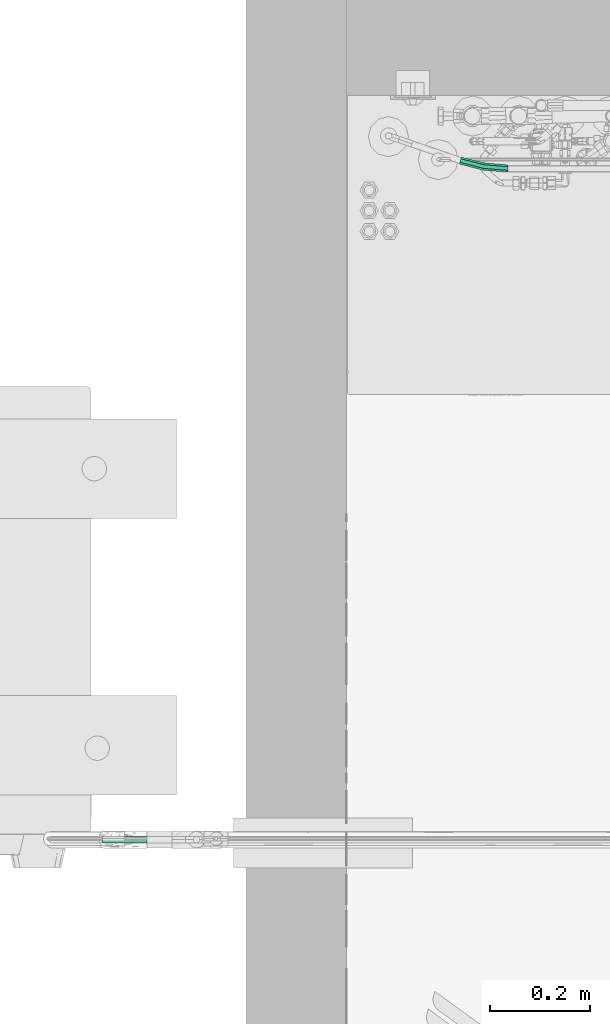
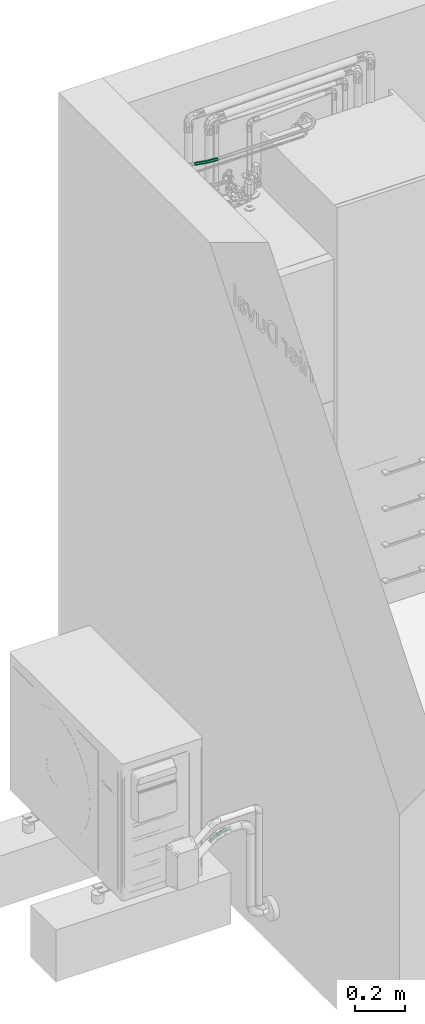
# One storey, part 25 of 30: 2 flow fittings.
"""IFC2X3 building model written with IfcOpenShell, lengths in metres."""

import ifcopenshell
import ifcopenshell.guid

model = None  # the IFC model being written
_history = None  # IfcOwnerHistory: only IFC2X3 demands one
_inside = {}  # id of a spatial element -> (the spatial element, [elements in it])
_under = {}  # id of a project, library or spatial element -> (it, [spatial elements below it])
_declared = {}  # id of a project -> (the project, [libraries it declares])
_typed = {}  # id of a type object -> (the type object, [elements of that type])
_made_of = {}  # id of a material, layer set ... -> (it, [elements and type objects made of it])


def new_model(schema):
    """Start an empty IFC model of exactly this schema.

    Asked for "IFC4X3", IfcOpenShell would pick the latest addendum, in which some entities
    have other attributes; the version numbers below select the first issue.
    IFC2X3 requires an IfcOwnerHistory on every rooted entity: one is made here for all.
    """
    global model, _history
    if schema == "IFC4X3":
        model = ifcopenshell.file(schema_version=(4, 3, 0, 0))
    else:
        model = ifcopenshell.file(schema=schema)
    _inside.clear()
    _under.clear()
    _declared.clear()
    _typed.clear()
    _made_of.clear()
    _history = None
    if model.schema == "IFC2X3":
        org = make("IfcOrganization", Name="unknown")
        user = make(
            "IfcPersonAndOrganization",
            ThePerson=make("IfcPerson", FamilyName="unknown"),
            TheOrganization=org,
        )
        app = make(
            "IfcApplication",
            ApplicationDeveloper=org,
            Version="unknown",
            ApplicationFullName="unknown",
            ApplicationIdentifier="unknown",
        )
        _history = make(
            "IfcOwnerHistory",
            OwningUser=user,
            OwningApplication=app,
            ChangeAction="ADDED",
            CreationDate=0,
        )
    return model


def make(cls, **values):
    """One entity of the class cls with the attributes given. An attribute that is None is left unset."""
    return model.create_entity(
        cls, **{name: value for name, value in values.items() if value is not None}
    )


def entity(cls, *values):
    """Any entity or typed value of the class cls, its attributes in the order of the schema. None: left unset."""
    e = model.create_entity(cls)
    for i, value in enumerate(values):
        if value is not None:
            e[i] = value
    return e


def rooted(cls, **values):
    """An entity with a GlobalId (a new one), such as an element, a storey or a relation."""
    return make(cls, GlobalId=ifcopenshell.guid.new(), OwnerHistory=_history, **values)


def si_unit(unit_type, name, prefix=None):
    """IfcSIUnit, for example si_unit("LENGTHUNIT", "METRE", prefix="MILLI")."""
    return make("IfcSIUnit", UnitType=unit_type, Prefix=prefix, Name=name)


def converted_unit(unit_type, name, factor, base, dimensions=None, offset=None):
    """IfcConversionBasedUnit, such as the inch: factor (a typed value) times the base unit."""
    return make(
        "IfcConversionBasedUnit"
        if offset is None
        else "IfcConversionBasedUnitWithOffset",
        ConversionOffset=offset,
        Dimensions=None
        if dimensions is None
        else entity("IfcDimensionalExponents", *dimensions),
        UnitType=unit_type,
        Name=name,
        ConversionFactor=make(
            "IfcMeasureWithUnit", ValueComponent=factor, UnitComponent=base
        ),
    )


def derived_unit(unit_type, elements):
    """IfcDerivedUnit: a product of units, each with its exponent."""
    return make(
        "IfcDerivedUnit",
        Elements=[
            make("IfcDerivedUnitElement", Unit=unit, Exponent=power)
            for unit, power in elements
        ],
        UnitType=unit_type,
    )


def assignment(units):
    """IfcUnitAssignment: the units of a project."""
    return None if units is None else make("IfcUnitAssignment", Units=units)


def point(xyz):
    """IfcCartesianPoint."""
    return None if xyz is None else make("IfcCartesianPoint", Coordinates=xyz)


def direction(xyz):
    """IfcDirection."""
    return None if xyz is None else make("IfcDirection", DirectionRatios=xyz)


def frame(location, z_axis=None, x_axis=None):
    """IfcAxis2Placement3D, a coordinate frame: its origin and axes. An axis left out is left unset."""
    return make(
        "IfcAxis2Placement3D",
        Location=point(location),
        Axis=direction(z_axis),
        RefDirection=direction(x_axis),
    )


def origin():
    """The frame at (0, 0, 0) with its axes left unset."""
    return frame((0.0, 0.0, 0.0))


def place(relative_to, where):
    """IfcLocalPlacement: puts the frame where relative to a parent placement (None: the world)."""
    return make(
        "IfcLocalPlacement", PlacementRelTo=relative_to, RelativePlacement=where
    )


def context(
    kind, dimensions, precision=None, world=None, true_north=None, identifier=None
):
    """IfcGeometricRepresentationContext, for example the 3D "Model" context."""
    return make(
        "IfcGeometricRepresentationContext",
        ContextIdentifier=identifier,
        ContextType=kind,
        CoordinateSpaceDimension=dimensions,
        Precision=precision,
        WorldCoordinateSystem=world,
        TrueNorth=true_north,
    )


def subcontext(parent, identifier, kind, view, scale=None):
    """IfcGeometricRepresentationSubContext, for example "Body" below "Model"."""
    return make(
        "IfcGeometricRepresentationSubContext",
        ContextIdentifier=identifier,
        ContextType=kind,
        ParentContext=parent,
        TargetScale=scale,
        TargetView=view,
    )


def project(units=None, contexts=None):
    """IfcProject with its units and contexts."""
    return rooted(
        "IfcProject",
        Name="project",
        RepresentationContexts=contexts,
        UnitsInContext=assignment(units),
    )


def spatial(cls, under=None, at=None, **own):
    """A site, building, storey or space (cls), placed at a placement, below another one or the project."""
    s = rooted(cls, ObjectPlacement=at, **own)
    if under is not None:
        _under.setdefault(under.id(), (under, []))[1].append(s)
    return s


def faces_of(points, faces, orient=None, outer=None):
    """IfcFace entities. A face is a list of loops; a loop is a list of indices into points, from 0.

    orient and outer hold one flag for each loop. By default every Orientation is true, the
    first loop of a face is its IfcFaceOuterBound and the others are IfcFaceBound.
    """
    made = []
    for i, loops in enumerate(faces):
        bounds = []
        for j, loop in enumerate(loops):
            is_outer = j == 0 if outer is None else outer[i][j]
            bounds.append(
                make(
                    "IfcFaceOuterBound" if is_outer else "IfcFaceBound",
                    Bound=make("IfcPolyLoop", Polygon=[points[k] for k in loop]),
                    Orientation=True if orient is None else orient[i][j],
                )
            )
        made.append(make("IfcFace", Bounds=bounds))
    return made


def faceted_brep(points, faces, orient=None, outer=None, voids=None):
    """IfcFacetedBrep: a solid bounded by flat faces; with voids (closed shells), ...WithVoids."""
    shared = [point(p) for p in points]
    hull = make("IfcClosedShell", CfsFaces=faces_of(shared, faces, orient, outer))
    if voids is None:
        return make("IfcFacetedBrep", Outer=hull)
    return make(
        "IfcFacetedBrepWithVoids",
        Outer=hull,
        Voids=[
            make(cls, CfsFaces=faces_of(shared, fs, o, b)) for cls, fs, o, b in voids
        ],
    )


def shape(context_of_items, identifier, shape_type, items):
    """IfcShapeRepresentation: the items that make up one representation, for example the "Body"."""
    return make(
        "IfcShapeRepresentation",
        ContextOfItems=context_of_items,
        RepresentationIdentifier=identifier,
        RepresentationType=shape_type,
        Items=items,
    )


def source(mapping_origin, context_of_items, identifier, shape_type, items):
    """IfcRepresentationMap: a shape defined once, which mapped items show again and again."""
    return make(
        "IfcRepresentationMap",
        MappingOrigin=mapping_origin,
        MappedRepresentation=shape(context_of_items, identifier, shape_type, items),
    )


def transform(
    local_origin,
    x_axis=None,
    y_axis=None,
    z_axis=None,
    scale=None,
    scale2=None,
    scale3=None,
    uniform=True,
):
    """IfcCartesianTransformationOperator3D, or its non-uniform kind. x_axis, y_axis, z_axis: its Axis1, 2, 3."""
    if uniform:
        return make(
            "IfcCartesianTransformationOperator3D",
            Axis1=direction(x_axis),
            Axis2=direction(y_axis),
            LocalOrigin=point(local_origin),
            Scale=scale,
            Axis3=direction(z_axis),
        )
    return make(
        "IfcCartesianTransformationOperator3DnonUniform",
        Axis1=direction(x_axis),
        Axis2=direction(y_axis),
        LocalOrigin=point(local_origin),
        Scale=scale,
        Axis3=direction(z_axis),
        Scale2=scale2,
        Scale3=scale3,
    )


def mapped(mapping_source, mapping_target):
    """IfcMappedItem: shows the shape of a source again, moved by a transform."""
    return make(
        "IfcMappedItem", MappingSource=mapping_source, MappingTarget=mapping_target
    )


def material(Name=None, Category=None):
    """IfcMaterial."""
    return make("IfcMaterial", Name=Name, Category=Category)


def made_of(thing, what):
    """Note that an element or type object is made of a material, layer set ...; save() writes the relation."""
    if what is not None:
        _made_of.setdefault(what.id(), (what, []))[1].append(thing)
    return thing


def type_object(cls, material=None, **own):
    """A type object (cls), such as IfcWallType, which elements share."""
    return made_of(rooted(cls, **own), material)


def type_shapes(of_type, sources):
    """Give a type object the sources (RepresentationMaps) that its elements show as mapped items."""
    of_type.RepresentationMaps = sources


def element(
    cls,
    number,
    at=None,
    inside=None,
    cuts=None,
    type_object=None,
    material=None,
    context=None,
    identifier="Body",
    shape_type=None,
    held_by="IfcProductDefinitionShape",
    body=None,
    shapes=None,
    **own,
):
    """One element of the class cls, such as IfcWall. Its Tag is "e" and its number.

    at: its placement. inside: the storey or other place that contains it. cuts: it is an
    opening in that element (IfcRelVoidsElement). A single representation is given by context,
    identifier, shape_type and body (its items); several are given by shapes. held_by: the class
    of the entity that holds the representations. save() writes the other relations.
    """
    e = rooted(cls, Tag="e%d" % number, ObjectPlacement=at, **own)
    if body is not None:
        shapes = [shape(context, identifier, shape_type, body)]
    if shapes is not None:
        e.Representation = make(held_by, Representations=shapes)
    if inside is not None:
        _inside.setdefault(inside.id(), (inside, []))[1].append(e)
    if cuts is not None:
        rooted(
            "IfcRelVoidsElement", RelatingBuildingElement=cuts, RelatedOpeningElement=e
        )
    if type_object is not None:
        _typed.setdefault(type_object.id(), (type_object, []))[1].append(e)
    return made_of(e, material)


def aggregate(whole, parts):
    """IfcRelAggregates: a whole, such as a stair, and the parts it consists of."""
    return rooted("IfcRelAggregates", RelatingObject=whole, RelatedObjects=parts)


def save(model, path):
    """Write the relations noted so far, then the file.

    IfcRelAggregates (storeys below a building ...), IfcRelContainedInSpatialStructure (elements
    in a storey), IfcRelDefinesByType, IfcRelAssociatesMaterial and IfcRelDeclares: one each for
    every whole, place, type object, material and project.
    """
    for whole, parts in _under.values():
        aggregate(whole, parts)
    for where, things in _inside.values():
        rooted(
            "IfcRelContainedInSpatialStructure",
            RelatedElements=things,
            RelatingStructure=where,
        )
    for kind, things in _typed.values():
        rooted("IfcRelDefinesByType", RelatedObjects=things, RelatingType=kind)
    for what, things in _made_of.values():
        rooted("IfcRelAssociatesMaterial", RelatedObjects=things, RelatingMaterial=what)
    for by, libraries in _declared.values():
        rooted("IfcRelDeclares", RelatingContext=by, RelatedDefinitions=libraries)
    model.write(path)


model = new_model("IFC2X3")

# Units and contexts
model_context = context("Model", 3, precision=1e-05, world=origin(), true_north=direction((6.123031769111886e-17, 1.0)))
body_context = subcontext(model_context, "Body", "Model", "MODEL_VIEW")
ifc_project = project(units=[si_unit("LENGTHUNIT", "METRE"), si_unit("AREAUNIT", "SQUARE_METRE"), si_unit("VOLUMEUNIT", "CUBIC_METRE"), converted_unit("PLANEANGLEUNIT", "DEGREE", entity("IfcPlaneAngleMeasure", 0.017453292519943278), si_unit("PLANEANGLEUNIT", "RADIAN"), dimensions=[0, 0, 0, 0, 0, 0, 0]), si_unit("MASSUNIT", "GRAM", prefix="KILO"), derived_unit("MASSDENSITYUNIT", [(si_unit("MASSUNIT", "GRAM", prefix="KILO"), 1), (si_unit("LENGTHUNIT", "METRE"), -3)]), derived_unit("IONCONCENTRATIONUNIT", [(si_unit("MASSUNIT", "GRAM", prefix="KILO"), 1), (si_unit("LENGTHUNIT", "METRE"), -3)]), derived_unit("MOMENTOFINERTIAUNIT", [(si_unit("LENGTHUNIT", "METRE"), 4)]), si_unit("TIMEUNIT", "SECOND"), si_unit("FREQUENCYUNIT", "HERTZ"), si_unit("THERMODYNAMICTEMPERATUREUNIT", "DEGREE_CELSIUS"), derived_unit("THERMALTRANSMITTANCEUNIT", [(si_unit("MASSUNIT", "GRAM", prefix="KILO"), 1), (si_unit("THERMODYNAMICTEMPERATUREUNIT", "KELVIN"), -1), (si_unit("TIMEUNIT", "SECOND"), -3)]), derived_unit("THERMALCONDUCTANCEUNIT", [(si_unit("MASSUNIT", "GRAM", prefix="KILO"), 1), (si_unit("THERMODYNAMICTEMPERATUREUNIT", "KELVIN"), -1), (si_unit("TIMEUNIT", "SECOND"), -3), (si_unit("LENGTHUNIT", "METRE"), 1)]), derived_unit("VOLUMETRICFLOWRATEUNIT", [(si_unit("LENGTHUNIT", "METRE", prefix="DECI"), 3), (si_unit("TIMEUNIT", "SECOND"), -1)]), derived_unit("MASSFLOWRATEUNIT", [(si_unit("MASSUNIT", "GRAM", prefix="KILO"), 1), (si_unit("TIMEUNIT", "SECOND"), -1)]), derived_unit("ROTATIONALFREQUENCYUNIT", [(si_unit("TIMEUNIT", "SECOND"), -1)]), si_unit("ELECTRICCURRENTUNIT", "AMPERE"), si_unit("ELECTRICVOLTAGEUNIT", "VOLT"), si_unit("POWERUNIT", "WATT"), si_unit("FORCEUNIT", "NEWTON", prefix="KILO"), si_unit("ILLUMINANCEUNIT", "LUX"), si_unit("LUMINOUSFLUXUNIT", "LUMEN"), si_unit("LUMINOUSINTENSITYUNIT", "CANDELA"), si_unit("ENERGYUNIT", "JOULE"), derived_unit("USERDEFINED", [(si_unit("MASSUNIT", "GRAM", prefix="KILO"), -1), (si_unit("LENGTHUNIT", "METRE"), -2), (si_unit("TIMEUNIT", "SECOND"), 3), (si_unit("LUMINOUSFLUXUNIT", "LUMEN"), 1)]), derived_unit("USERDEFINED", [(si_unit("MASSUNIT", "GRAM", prefix="KILO"), 1), (si_unit("TIMEUNIT", "SECOND"), -3), (si_unit("LENGTHUNIT", "METRE"), 3), (si_unit("ELECTRICCURRENTUNIT", "AMPERE"), -2)]), derived_unit("SOUNDPOWERUNIT", [(si_unit("MASSUNIT", "GRAM", prefix="KILO"), 1), (si_unit("TIMEUNIT", "SECOND"), -3), (si_unit("LENGTHUNIT", "METRE"), 2)]), derived_unit("SOUNDPRESSUREUNIT", [(si_unit("MASSUNIT", "GRAM", prefix="KILO"), 1), (si_unit("LENGTHUNIT", "METRE"), -1), (si_unit("TIMEUNIT", "SECOND"), -2)]), derived_unit("LINEARVELOCITYUNIT", [(si_unit("LENGTHUNIT", "METRE"), 1), (si_unit("TIMEUNIT", "SECOND"), -1)]), si_unit("PRESSUREUNIT", "PASCAL"), derived_unit("USERDEFINED", [(si_unit("MASSUNIT", "GRAM", prefix="KILO"), 1), (si_unit("LENGTHUNIT", "METRE"), -2), (si_unit("TIMEUNIT", "SECOND"), -2)]), derived_unit("LINEARFORCEUNIT", [(si_unit("MASSUNIT", "GRAM", prefix="KILO"), 1), (si_unit("TIMEUNIT", "SECOND"), -2)]), derived_unit("PLANARFORCEUNIT", [(si_unit("MASSUNIT", "GRAM", prefix="KILO"), 1), (si_unit("LENGTHUNIT", "METRE"), -1), (si_unit("TIMEUNIT", "SECOND"), -2)]), derived_unit("SPECIFICHEATCAPACITYUNIT", [(si_unit("THERMODYNAMICTEMPERATUREUNIT", "KELVIN"), -1), (si_unit("LENGTHUNIT", "METRE"), 2), (si_unit("TIMEUNIT", "SECOND"), -2)]), derived_unit("HEATFLUXDENSITYUNIT", [(si_unit("MASSUNIT", "GRAM", prefix="KILO"), 1), (si_unit("TIMEUNIT", "SECOND"), -3)]), derived_unit("HEATINGVALUEUNIT", [(si_unit("LENGTHUNIT", "METRE"), 2), (si_unit("TIMEUNIT", "SECOND"), -2)]), derived_unit("VAPORPERMEABILITYUNIT", [(si_unit("LENGTHUNIT", "METRE"), -1), (si_unit("TIMEUNIT", "SECOND"), 1)]), derived_unit("DYNAMICVISCOSITYUNIT", [(si_unit("MASSUNIT", "GRAM", prefix="KILO"), 1), (si_unit("TIMEUNIT", "SECOND"), -1), (si_unit("LENGTHUNIT", "METRE"), -1)]), derived_unit("THERMALEXPANSIONCOEFFICIENTUNIT", [(si_unit("THERMODYNAMICTEMPERATUREUNIT", "KELVIN"), -1)]), derived_unit("MODULUSOFELASTICITYUNIT", [(si_unit("MASSUNIT", "GRAM", prefix="KILO"), 1), (si_unit("LENGTHUNIT", "METRE"), -1), (si_unit("TIMEUNIT", "SECOND"), -2)]), derived_unit("ISOTHERMALMOISTURECAPACITYUNIT", [(si_unit("MASSUNIT", "GRAM", prefix="KILO"), -1), (si_unit("LENGTHUNIT", "METRE"), 3)]), derived_unit("MOISTUREDIFFUSIVITYUNIT", [(si_unit("TIMEUNIT", "SECOND"), -1), (si_unit("LENGTHUNIT", "METRE"), 2)]), derived_unit("MASSPERLENGTHUNIT", [(si_unit("MASSUNIT", "GRAM", prefix="KILO"), 1), (si_unit("LENGTHUNIT", "METRE"), -1)]), derived_unit("THERMALRESISTANCEUNIT", [(si_unit("MASSUNIT", "GRAM", prefix="KILO"), -1), (si_unit("TIMEUNIT", "SECOND"), 3), (si_unit("THERMODYNAMICTEMPERATUREUNIT", "KELVIN"), 1)]), derived_unit("ACCELERATIONUNIT", [(si_unit("LENGTHUNIT", "METRE"), 1), (si_unit("TIMEUNIT", "SECOND"), -2)]), derived_unit("ANGULARVELOCITYUNIT", [(si_unit("TIMEUNIT", "SECOND"), -1), (si_unit("PLANEANGLEUNIT", "RADIAN"), 1)]), derived_unit("LINEARSTIFFNESSUNIT", [(si_unit("MASSUNIT", "GRAM", prefix="KILO"), 1), (si_unit("TIMEUNIT", "SECOND"), -2)]), derived_unit("WARPINGCONSTANTUNIT", [(si_unit("LENGTHUNIT", "METRE"), 6)]), derived_unit("LINEARMOMENTUNIT", [(si_unit("MASSUNIT", "GRAM", prefix="KILO"), 1), (si_unit("LENGTHUNIT", "METRE"), 1), (si_unit("TIMEUNIT", "SECOND"), -2)]), derived_unit("TORQUEUNIT", [(si_unit("MASSUNIT", "GRAM", prefix="KILO"), 1), (si_unit("LENGTHUNIT", "METRE"), 2), (si_unit("TIMEUNIT", "SECOND"), -2)])], contexts=[model_context])

# Site, building, storey
site_placement = place(None, origin())
site = spatial("IfcSite", under=ifc_project, at=site_placement, Name="Default", CompositionType="ELEMENT")
building_placement = place(site_placement, origin())
building = spatial("IfcBuilding", under=site, at=building_placement, CompositionType="ELEMENT")
storey_placement = place(building_placement, origin())
storey = spatial("IfcBuildingStorey", under=building, at=storey_placement, Name="Niveau 0", CompositionType="ELEMENT", Elevation=-1.949160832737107e-14)

# Flow fittings
ifc_material = material(Name="Cuivre")
pipe_fitting_type_1 = type_object("IfcPipeFittingType", Name="Coude - tube frigo:Standard", PredefinedType="NOTDEFINED", material=ifc_material)
shared_shape_1 = source(origin(), body_context, "Body", "Brep", [
    faceted_brep([(0.01478892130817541, 0.007839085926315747, 0.0), (0.013139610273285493, 0.011123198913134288, -0.006365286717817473), (0.04012857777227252, 0.028873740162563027, -0.006365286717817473), (0.04249078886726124, 0.02605849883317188, 0.0), (0.009840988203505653, 0.0176914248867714, -0.006365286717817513), (0.03540415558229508, 0.03450422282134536, -0.006365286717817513), (0.00819167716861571, 0.020975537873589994, 0.0), (0.033041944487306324, 0.03731946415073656, 0.0), (0.00984098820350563, 0.01769142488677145, 0.00636528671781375), (0.035404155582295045, 0.0345042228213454, 0.00636528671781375), (0.013139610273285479, 0.011123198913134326, 0.0063652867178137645), (0.0401285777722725, 0.028873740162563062, 0.0063652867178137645), (-0.016367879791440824, -0.0035008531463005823, 0.0), (-0.017215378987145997, 7.509010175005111e-05, -0.006365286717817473), (-0.01891037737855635, 0.007226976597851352, -0.006365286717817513), (-0.01975787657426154, 0.010802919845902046, 0.0), (-0.01891037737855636, 0.007226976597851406, 0.00636528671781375), (-0.017215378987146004, 7.509010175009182e-05, 0.0063652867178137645), (-0.049299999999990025, -0.00735000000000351, 0.0), (-0.04929999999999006, -0.003675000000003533, -0.006365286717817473), (-0.049299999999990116, 0.0036749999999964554, -0.006365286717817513), (-0.04929999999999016, 0.007349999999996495, 0.0), (-0.049299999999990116, 0.003674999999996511, 0.00636528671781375), (-0.04929999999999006, -0.0036750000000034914, 0.0063652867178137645)], [[[0, 1, 2, 3]], [[1, 4, 5, 2]], [[4, 6, 7, 5]], [[6, 8, 9, 7]], [[8, 10, 11, 9]], [[10, 0, 3, 11]], [[12, 13, 1, 0]], [[13, 14, 4, 1]], [[14, 15, 6, 4]], [[15, 16, 8, 6]], [[16, 17, 10, 8]], [[17, 12, 0, 10]], [[18, 19, 13, 12]], [[19, 20, 14, 13]], [[20, 21, 15, 14]], [[21, 22, 16, 15]], [[22, 23, 17, 16]], [[23, 18, 12, 17]], [[3, 2, 5, 7, 9, 11]], [[23, 22, 21, 20, 19, 18]]]),
])
type_shapes(pipe_fitting_type_1, [shared_shape_1])
flow_fitting_1_placement = place(storey_placement, frame((-21.064611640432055, 1.3750530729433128, 0.03567192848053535), z_axis=(0.0, -1.0, 0.0), x_axis=(-1.0, 0.0, -1.1853610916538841e-05)))
element("IfcFlowFitting", 1, at=flow_fitting_1_placement, inside=storey, type_object=pipe_fitting_type_1, material=ifc_material, Name="Coude - tube frigo:Standard", ObjectType="Coude - tube frigo:Standard", context=body_context, shape_type="MappedRepresentation", body=[
    mapped(shared_shape_1, transform((0.0, 0.0, 0.0), scale=1.0)),
])
pipe_fitting_type_2 = type_object("IfcPipeFittingType", Name="Coude - tube frigo:Standard", PredefinedType="NOTDEFINED", material=ifc_material)
shared_shape_2 = source(origin(), body_context, "Body", "Brep", [
    faceted_brep([(0.0005369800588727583, -0.0032088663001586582, 0.0), (-6.9569892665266e-05, 0.00041573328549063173, -0.006365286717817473), (0.04781052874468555, 0.012575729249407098, -0.006365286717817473), (0.04900699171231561, 0.009100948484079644, 0.0), (-0.0012826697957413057, 0.007664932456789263, -0.006365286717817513), (0.04541760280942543, 0.01952529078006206, -0.006365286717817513), (-0.0018892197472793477, 0.011289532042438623, 0.0), (0.04422113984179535, 0.023000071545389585, 0.0), (-0.0012826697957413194, 0.007664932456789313, 0.00636528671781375), (0.04541760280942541, 0.01952529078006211, 0.00636528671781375), (-6.956989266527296e-05, 0.00041573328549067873, 0.0063652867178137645), (0.04781052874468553, 0.012575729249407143, 0.0063652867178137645), (-0.04929999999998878, -0.007350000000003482, 0.0), (-0.04929999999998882, -0.0036750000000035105, -0.006365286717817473), (-0.04929999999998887, 0.0036749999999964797, -0.006365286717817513), (-0.049299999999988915, 0.0073499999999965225, 0.0), (-0.049299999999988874, 0.0036749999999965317, 0.00636528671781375), (-0.04929999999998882, -0.0036750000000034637, 0.0063652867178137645)], [[[0, 1, 2, 3]], [[1, 4, 5, 2]], [[4, 6, 7, 5]], [[6, 8, 9, 7]], [[8, 10, 11, 9]], [[10, 0, 3, 11]], [[12, 13, 1, 0]], [[13, 14, 4, 1]], [[14, 15, 6, 4]], [[15, 16, 8, 6]], [[16, 17, 10, 8]], [[17, 12, 0, 10]], [[3, 2, 5, 7, 9, 11]], [[17, 16, 15, 14, 13, 12]]]),
])
type_shapes(pipe_fitting_type_2, [shared_shape_2])
flow_fitting_2_placement = place(storey_placement, frame((-20.34012784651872, 2.7214259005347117, 2.205137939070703), z_axis=(0.0, 0.0, 1.0), x_axis=(0.9455185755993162, -0.3255681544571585, 0.0)))
element("IfcFlowFitting", 2, at=flow_fitting_2_placement, inside=storey, type_object=pipe_fitting_type_2, material=ifc_material, Name="Coude - tube frigo:Standard", ObjectType="Coude - tube frigo:Standard", context=body_context, shape_type="MappedRepresentation", body=[
    mapped(shared_shape_2, transform((0.0, 0.0, 0.0), scale=1.0)),
])

save(model, "model.ifc")
